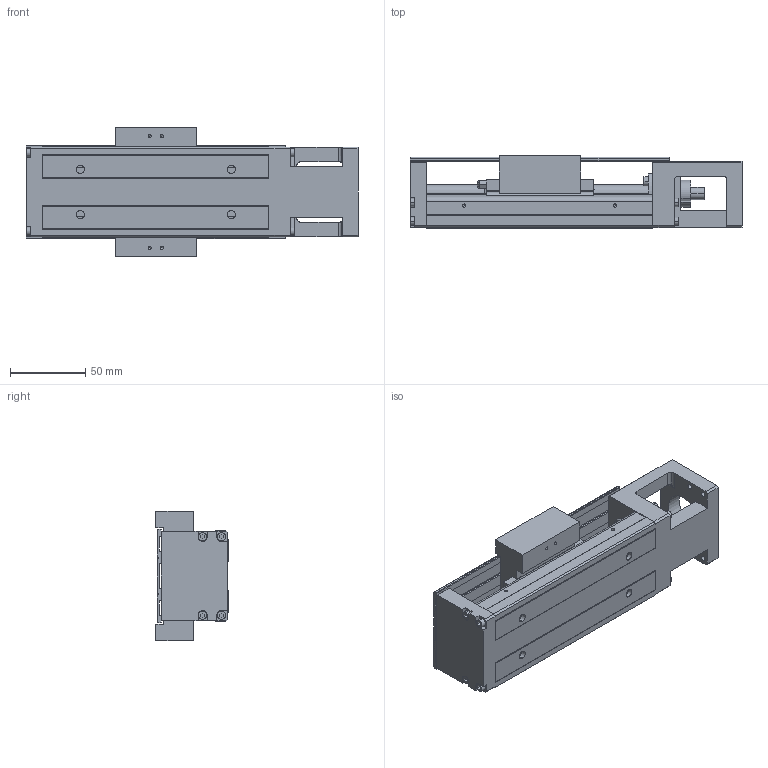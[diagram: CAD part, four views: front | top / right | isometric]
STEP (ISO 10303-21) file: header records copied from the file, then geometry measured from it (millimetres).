
FILE_DESCRIPTION (( 'STEP AP203' ), '1' );
FILE_NAME ('HKK60D5C-150A1-F0C.stp', '2021-11-25T07:10:36', ( '' ), ( '' ), 'SwSTEP 2.0', 'SolidWorks 2018', '' );
FILE_SCHEMA (( 'CONFIG_CONTROL_DESIGN' ));
Length unit declared in the file: millimetre
Products named in the file (1): HKK60D5C-150A1-F0C
Bounding box: 220 x 48 x 86 mm (x, y, z)
Volume: 377277.7 mm3; surface area: 118263.7 mm2
Topology: 2 solids, 10 shells, 793 faces, 2127 edges, 1365 vertices
Faces by surface type: plane 519, cylinder 214, cone 50, torus 8, bspline 2
Entity records: 24912 total; most frequent: CARTESIAN_POINT 4960, ORIENTED_EDGE 4154, DIRECTION 4065, EDGE_CURVE 2077, VECTOR 1505, LINE 1505, VERTEX_POINT 1365, AXIS2_PLACEMENT_3D 1280
